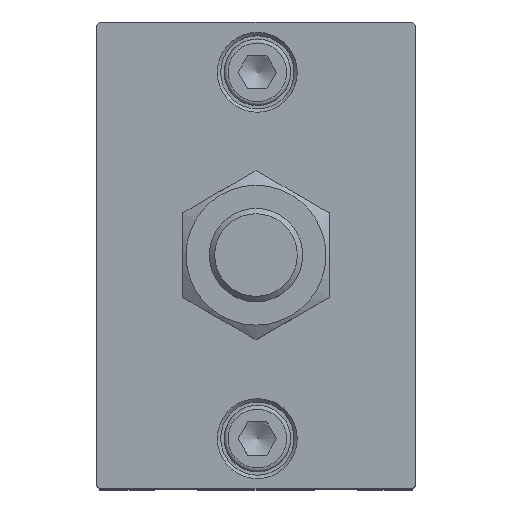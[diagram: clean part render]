
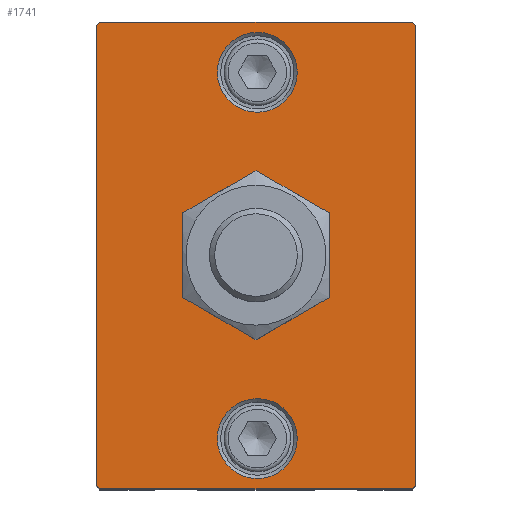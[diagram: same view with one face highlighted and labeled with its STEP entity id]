
A CAD part, top view. The second image highlights one B-rep face of the part: STEP entity #1741.
In plain terms, the highlighted planar face has unit normal (0, 0, 1).
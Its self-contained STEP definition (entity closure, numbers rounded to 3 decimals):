
#497=CARTESIAN_POINT('',(4.517,-2.784,16.0));
#498=VERTEX_POINT('',#497);
#514=CARTESIAN_POINT('',(4.517,2.784,16.0));
#515=VERTEX_POINT('',#514);
#523=CARTESIAN_POINT('',(4.517,2.784,16.0));
#524=DIRECTION('',(0.0,-1.0,0.0));
#525=VECTOR('',#524,5.568);
#526=LINE('',#523,#525);
#527=EDGE_CURVE('',#515,#498,#526,.T.);
#590=CARTESIAN_POINT('',(14.801,-7.5,16.0));
#591=VERTEX_POINT('',#590);
#607=CARTESIAN_POINT('',(9.233,-7.5,16.0));
#608=VERTEX_POINT('',#607);
#616=CARTESIAN_POINT('',(9.233,-7.5,16.0));
#617=DIRECTION('',(1.0,0.0,0.0));
#618=VECTOR('',#617,5.568);
#619=LINE('',#616,#618);
#620=EDGE_CURVE('',#608,#591,#619,.T.);
#683=CARTESIAN_POINT('',(19.517,2.784,16.0));
#684=VERTEX_POINT('',#683);
#700=CARTESIAN_POINT('',(19.517,-2.784,16.0));
#701=VERTEX_POINT('',#700);
#709=CARTESIAN_POINT('',(19.517,-2.784,16.0));
#710=DIRECTION('',(0.0,1.0,0.0));
#711=VECTOR('',#710,5.568);
#712=LINE('',#709,#711);
#713=EDGE_CURVE('',#701,#684,#712,.T.);
#844=CARTESIAN_POINT('',(14.801,7.5,16.0));
#845=VERTEX_POINT('',#844);
#846=CARTESIAN_POINT('',(12.017,0.0,16.0));
#847=DIRECTION('',(0.0,0.0,-1.0));
#848=DIRECTION('',(0.0,1.0,0.0));
#849=AXIS2_PLACEMENT_3D('',#846,#847,#848);
#850=CIRCLE('',#849,8.);
#851=EDGE_CURVE('',#845,#684,#850,.T.);
#879=CARTESIAN_POINT('',(12.017,0.0,16.0));
#880=DIRECTION('',(0.0,0.0,-1.0));
#881=DIRECTION('',(0.0,1.0,0.0));
#882=AXIS2_PLACEMENT_3D('',#879,#880,#881);
#883=CIRCLE('',#882,8.);
#884=EDGE_CURVE('',#701,#591,#883,.T.);
#899=CARTESIAN_POINT('',(12.017,0.0,16.0));
#900=DIRECTION('',(0.0,0.0,-1.0));
#901=DIRECTION('',(0.0,1.0,0.0));
#902=AXIS2_PLACEMENT_3D('',#899,#900,#901);
#903=CIRCLE('',#902,8.);
#904=EDGE_CURVE('',#608,#498,#903,.T.);
#1170=CARTESIAN_POINT('',(-11.483,35.05,16.0));
#1171=VERTEX_POINT('',#1170);
#1178=CARTESIAN_POINT('',(35.517,35.05,16.0));
#1179=VERTEX_POINT('',#1178);
#1180=CARTESIAN_POINT('',(-11.483,35.05,16.0));
#1181=DIRECTION('',(1.0,0.0,0.0));
#1182=VECTOR('',#1181,47.);
#1183=LINE('',#1180,#1182);
#1184=EDGE_CURVE('',#1171,#1179,#1183,.T.);
#1217=CARTESIAN_POINT('',(-11.983,34.55,16.0));
#1218=VERTEX_POINT('',#1217);
#1225=CARTESIAN_POINT('',(-11.983,34.55,16.0));
#1226=DIRECTION('',(0.707,0.707,0.0));
#1227=VECTOR('',#1226,0.707);
#1228=LINE('',#1225,#1227);
#1229=EDGE_CURVE('',#1218,#1171,#1228,.T.);
#1346=CARTESIAN_POINT('',(36.017,-34.55,16.0));
#1347=VERTEX_POINT('',#1346);
#1354=CARTESIAN_POINT('',(35.517,-35.05,16.0));
#1355=VERTEX_POINT('',#1354);
#1356=CARTESIAN_POINT('',(36.017,-34.55,16.0));
#1357=DIRECTION('',(-0.707,-0.707,0.0));
#1358=VECTOR('',#1357,0.707);
#1359=LINE('',#1356,#1358);
#1360=EDGE_CURVE('',#1347,#1355,#1359,.T.);
#1609=CARTESIAN_POINT('',(-11.483,-35.05,16.0));
#1610=VERTEX_POINT('',#1609);
#1611=CARTESIAN_POINT('',(35.517,-35.05,16.0));
#1612=DIRECTION('',(-1.0,0.0,0.0));
#1613=VECTOR('',#1612,47.0);
#1614=LINE('',#1611,#1613);
#1615=EDGE_CURVE('',#1355,#1610,#1614,.T.);
#1657=CARTESIAN_POINT('',(12.017,0.0,16.0));
#1658=DIRECTION('',(0.0,0.0,1.0));
#1659=DIRECTION('',(1.0,0.0,0.0));
#1660=AXIS2_PLACEMENT_3D('',#1657,#1658,#1659);
#1661=PLANE('',#1660);
#1662=ORIENTED_EDGE('',*,*,#1229,.F.);
#1663=CARTESIAN_POINT('',(-11.983,-34.55,16.0));
#1664=VERTEX_POINT('',#1663);
#1665=CARTESIAN_POINT('',(-11.983,-34.55,16.0));
#1666=DIRECTION('',(0.0,1.0,0.0));
#1667=VECTOR('',#1666,69.1);
#1668=LINE('',#1665,#1667);
#1669=EDGE_CURVE('',#1664,#1218,#1668,.T.);
#1670=ORIENTED_EDGE('',*,*,#1669,.F.);
#1671=CARTESIAN_POINT('',(-11.483,-35.05,16.0));
#1672=DIRECTION('',(-0.707,0.707,0.0));
#1673=VECTOR('',#1672,0.707);
#1674=LINE('',#1671,#1673);
#1675=EDGE_CURVE('',#1610,#1664,#1674,.T.);
#1676=ORIENTED_EDGE('',*,*,#1675,.F.);
#1677=ORIENTED_EDGE('',*,*,#1615,.F.);
#1678=ORIENTED_EDGE('',*,*,#1360,.F.);
#1679=CARTESIAN_POINT('',(36.017,34.55,16.0));
#1680=VERTEX_POINT('',#1679);
#1681=CARTESIAN_POINT('',(36.017,34.55,16.0));
#1682=DIRECTION('',(0.0,-1.0,0.0));
#1683=VECTOR('',#1682,69.1);
#1684=LINE('',#1681,#1683);
#1685=EDGE_CURVE('',#1680,#1347,#1684,.T.);
#1686=ORIENTED_EDGE('',*,*,#1685,.F.);
#1687=CARTESIAN_POINT('',(35.517,35.05,16.0));
#1688=DIRECTION('',(0.707,-0.707,0.0));
#1689=VECTOR('',#1688,0.707);
#1690=LINE('',#1687,#1689);
#1691=EDGE_CURVE('',#1179,#1680,#1690,.T.);
#1692=ORIENTED_EDGE('',*,*,#1691,.F.);
#1693=ORIENTED_EDGE('',*,*,#1184,.F.);
#1694=EDGE_LOOP('',(#1662,#1670,#1676,#1677,#1678,#1686,#1692,#1693));
#1695=FACE_OUTER_BOUND('',#1694,.T.);
#1696=CARTESIAN_POINT('',(18.217,27.5,16.0));
#1697=VERTEX_POINT('',#1696);
#1698=CARTESIAN_POINT('',(12.217,27.5,16.0));
#1699=DIRECTION('',(0.0,0.0,1.0));
#1700=DIRECTION('',(-1.0,0.0,0.0));
#1701=AXIS2_PLACEMENT_3D('',#1698,#1699,#1700);
#1702=CIRCLE('',#1701,6.);
#1703=EDGE_CURVE('',#1697,#1697,#1702,.T.);
#1704=ORIENTED_EDGE('',*,*,#1703,.F.);
#1705=EDGE_LOOP('',(#1704));
#1706=FACE_BOUND('',#1705,.T.);
#1707=ORIENTED_EDGE('',*,*,#851,.T.);
#1708=ORIENTED_EDGE('',*,*,#713,.F.);
#1709=ORIENTED_EDGE('',*,*,#884,.T.);
#1710=ORIENTED_EDGE('',*,*,#620,.F.);
#1711=ORIENTED_EDGE('',*,*,#904,.T.);
#1712=ORIENTED_EDGE('',*,*,#527,.F.);
#1713=CARTESIAN_POINT('',(9.233,7.5,16.0));
#1714=VERTEX_POINT('',#1713);
#1715=CARTESIAN_POINT('',(12.017,0.0,16.0));
#1716=DIRECTION('',(0.0,0.0,-1.0));
#1717=DIRECTION('',(0.0,1.0,0.0));
#1718=AXIS2_PLACEMENT_3D('',#1715,#1716,#1717);
#1719=CIRCLE('',#1718,8.);
#1720=EDGE_CURVE('',#515,#1714,#1719,.T.);
#1721=ORIENTED_EDGE('',*,*,#1720,.T.);
#1722=CARTESIAN_POINT('',(14.801,7.5,16.0));
#1723=DIRECTION('',(-1.0,0.0,0.0));
#1724=VECTOR('',#1723,5.568);
#1725=LINE('',#1722,#1724);
#1726=EDGE_CURVE('',#845,#1714,#1725,.T.);
#1727=ORIENTED_EDGE('',*,*,#1726,.F.);
#1728=EDGE_LOOP('',(#1707,#1708,#1709,#1710,#1711,#1712,#1721,#1727));
#1729=FACE_BOUND('',#1728,.T.);
#1730=CARTESIAN_POINT('',(18.217,-27.5,16.0));
#1731=VERTEX_POINT('',#1730);
#1732=CARTESIAN_POINT('',(12.217,-27.5,16.0));
#1733=DIRECTION('',(0.0,0.0,1.0));
#1734=DIRECTION('',(-1.0,0.0,0.0));
#1735=AXIS2_PLACEMENT_3D('',#1732,#1733,#1734);
#1736=CIRCLE('',#1735,6.);
#1737=EDGE_CURVE('',#1731,#1731,#1736,.T.);
#1738=ORIENTED_EDGE('',*,*,#1737,.F.);
#1739=EDGE_LOOP('',(#1738));
#1740=FACE_BOUND('',#1739,.T.);
#1741=ADVANCED_FACE('',(#1695,#1706,#1729,#1740),#1661,.T.);
